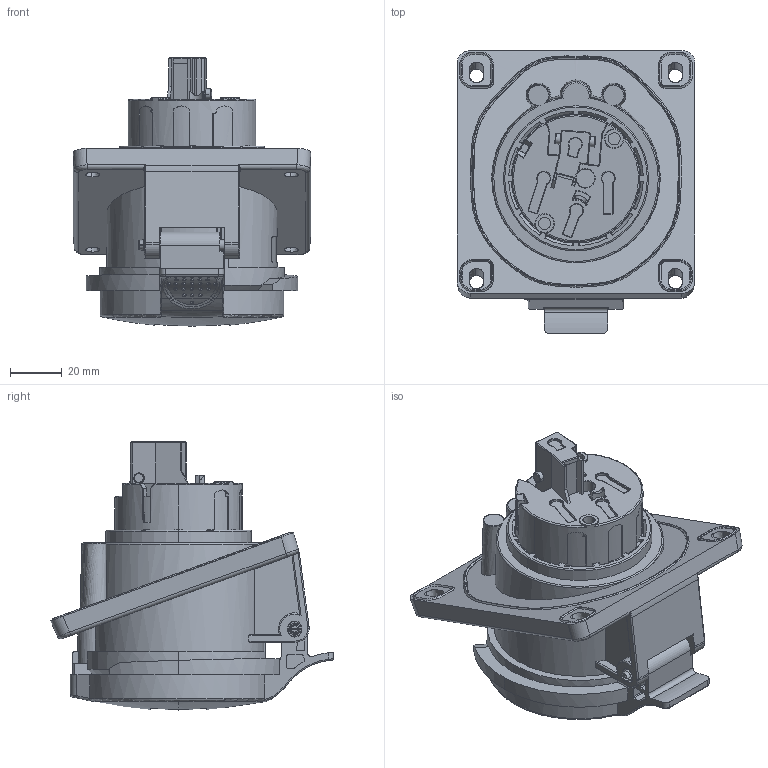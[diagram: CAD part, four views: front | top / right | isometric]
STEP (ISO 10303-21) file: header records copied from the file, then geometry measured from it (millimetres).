
FILE_DESCRIPTION (( 'STEP AP203' ), '1' );
FILE_NAME ('DIS4133266 (PAS 4p 32ﾀ 400ﾂ IP44).STEP', '2024-09-18T11:58:01', ( '' ), ( '' ), 'SwSTEP 2.0', 'SolidWorks 2022', '' );
FILE_SCHEMA (( 'CONFIG_CONTROL_DESIGN' ));
Products named in the file (1): DIS4133266 (PAS 4p 32А 400В IP44)
Bounding box: 92 x 109.45 x 103.8 mm (x, y, z)
Volume: 334390.7 mm3; surface area: 55976 mm2
Topology: 1 solids, 5 shells, 1085 faces, 2920 edges, 1883 vertices
Faces by surface type: cylinder 386, plane 347, bspline 159, torus 101, cone 54, sphere 38
Entity records: 52828 total; most frequent: CARTESIAN_POINT 27031, ORIENTED_EDGE 5810, DIRECTION 4856, EDGE_CURVE 2905, VERTEX_POINT 1881, AXIS2_PLACEMENT_3D 1867, EDGE_LOOP 1152, VECTOR 1122
